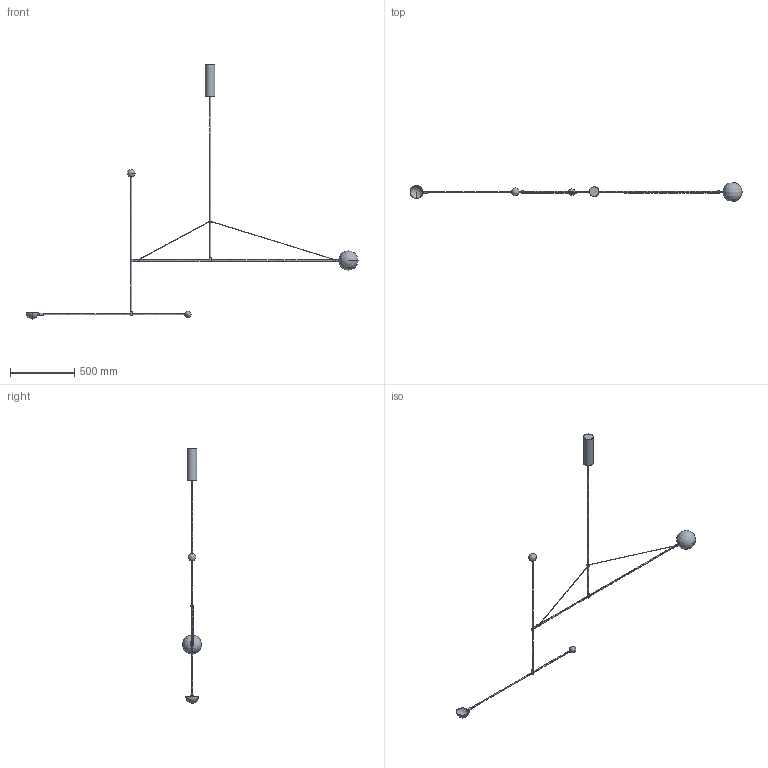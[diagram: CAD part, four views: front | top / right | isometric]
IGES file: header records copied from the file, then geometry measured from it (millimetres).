
Global section: file name: /Users/MA/Desktop/SIMPLIFIED 3D/MOBILE CHANDELIERS/MOBILE CHANDELIER 1/MA - Mobile Chandelier 1 - 240V.igs; preprocessor: Trout Lake IGES 012 May 24 2015; date: 150603.112738; units: millimetre
Bounding box: 2587.89 x 150 x 1981.18 mm (x, y, z)
Surface area: 336776.7 mm2 (no closed solid volume)
Topology: 0 solids, 0 shells, 45 faces, 692 edges, 647 vertices
Faces by surface type: bspline 45
